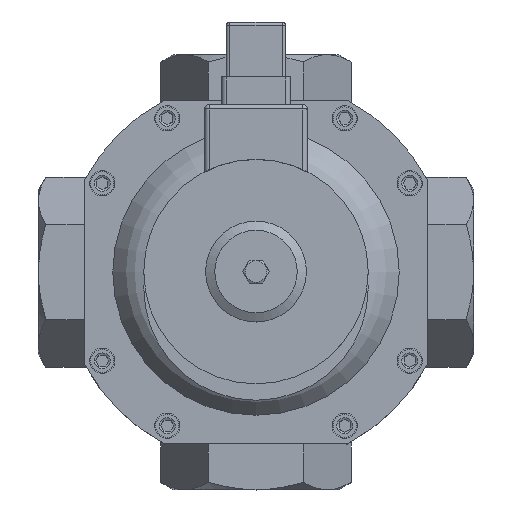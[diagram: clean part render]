
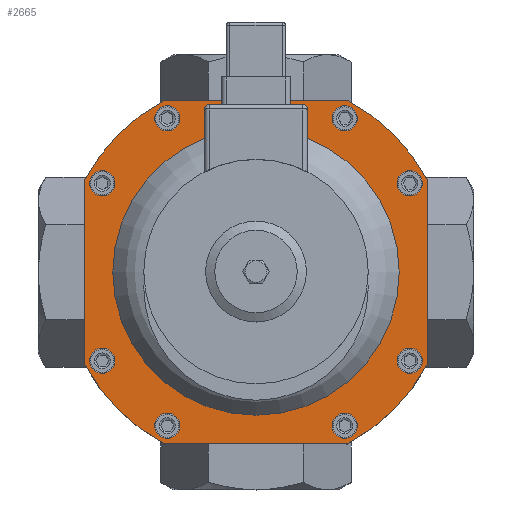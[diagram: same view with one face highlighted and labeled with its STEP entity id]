
A CAD part, top view. The second image highlights one B-rep face of the part: STEP entity #2665.
In plain terms, the highlighted planar face has unit normal (0, 0, 1).
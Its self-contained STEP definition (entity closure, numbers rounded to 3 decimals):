
#2665 = ADVANCED_FACE( '', ( #4058, #4059, #4060, #4061, #4062, #4063, #4064, #4065, #4066, #4067 ), #4068, .T. );
#4058 = FACE_BOUND( '', #6499, .T. );
#4059 = FACE_BOUND( '', #6500, .T. );
#4060 = FACE_BOUND( '', #6501, .T. );
#4061 = FACE_BOUND( '', #6502, .T. );
#4062 = FACE_BOUND( '', #6503, .T. );
#4063 = FACE_BOUND( '', #6504, .T. );
#4064 = FACE_BOUND( '', #6505, .T. );
#4065 = FACE_BOUND( '', #6506, .T. );
#4066 = FACE_OUTER_BOUND( '', #6507, .T. );
#4067 = FACE_BOUND( '', #6508, .T. );
#4068 = PLANE( '', #6509 );
#6499 = EDGE_LOOP( '', ( #10194 ) );
#6500 = EDGE_LOOP( '', ( #10195 ) );
#6501 = EDGE_LOOP( '', ( #10196 ) );
#6502 = EDGE_LOOP( '', ( #10197 ) );
#6503 = EDGE_LOOP( '', ( #10198 ) );
#6504 = EDGE_LOOP( '', ( #10199 ) );
#6505 = EDGE_LOOP( '', ( #10200 ) );
#6506 = EDGE_LOOP( '', ( #10201 ) );
#6507 = EDGE_LOOP( '', ( #10202, #10203, #10204, #10205, #10206, #10207, #10208, #10209 ) );
#6508 = EDGE_LOOP( '', ( #10210 ) );
#6509 = AXIS2_PLACEMENT_3D( '', #10211, #10212, #10213 );
#10194 = ORIENTED_EDGE( '', *, *, #12649, .T. );
#10195 = ORIENTED_EDGE( '', *, *, #12645, .T. );
#10196 = ORIENTED_EDGE( '', *, *, #12657, .T. );
#10197 = ORIENTED_EDGE( '', *, *, #12653, .T. );
#10198 = ORIENTED_EDGE( '', *, *, #12665, .T. );
#10199 = ORIENTED_EDGE( '', *, *, #12661, .T. );
#10200 = ORIENTED_EDGE( '', *, *, #12692, .T. );
#10201 = ORIENTED_EDGE( '', *, *, #12693, .T. );
#10202 = ORIENTED_EDGE( '', *, *, #12668, .T. );
#10203 = ORIENTED_EDGE( '', *, *, #12672, .T. );
#10204 = ORIENTED_EDGE( '', *, *, #12675, .T. );
#10205 = ORIENTED_EDGE( '', *, *, #12678, .T. );
#10206 = ORIENTED_EDGE( '', *, *, #12681, .T. );
#10207 = ORIENTED_EDGE( '', *, *, #12684, .T. );
#10208 = ORIENTED_EDGE( '', *, *, #12687, .T. );
#10209 = ORIENTED_EDGE( '', *, *, #12689, .T. );
#10210 = ORIENTED_EDGE( '', *, *, #12694, .T. );
#10211 = CARTESIAN_POINT( '', ( 0., 0., 13. ) );
#10212 = DIRECTION( '', ( 0., 0., 1. ) );
#10213 = DIRECTION( '', ( 1., 0., 0. ) );
#12645 = EDGE_CURVE( '', #14261, #14261, #14262, .T. );
#12649 = EDGE_CURVE( '', #14269, #14269, #14270, .T. );
#12653 = EDGE_CURVE( '', #14277, #14277, #14278, .T. );
#12657 = EDGE_CURVE( '', #14285, #14285, #14286, .T. );
#12661 = EDGE_CURVE( '', #14293, #14293, #14294, .T. );
#12665 = EDGE_CURVE( '', #14301, #14301, #14302, .T. );
#12668 = EDGE_CURVE( '', #14308, #14306, #14309, .T. );
#12672 = EDGE_CURVE( '', #14306, #14313, #14315, .T. );
#12675 = EDGE_CURVE( '', #14313, #14318, #14320, .T. );
#12678 = EDGE_CURVE( '', #14318, #14323, #14325, .T. );
#12681 = EDGE_CURVE( '', #14323, #14328, #14330, .T. );
#12684 = EDGE_CURVE( '', #14328, #14333, #14335, .T. );
#12687 = EDGE_CURVE( '', #14333, #14338, #14340, .T. );
#12689 = EDGE_CURVE( '', #14338, #14308, #14342, .T. );
#12692 = EDGE_CURVE( '', #14347, #14347, #14348, .T. );
#12693 = EDGE_CURVE( '', #14349, #14349, #14350, .T. );
#12694 = EDGE_CURVE( '', #14351, #14351, #14352, .F. );
#14261 = VERTEX_POINT( '', #18893 );
#14262 = CIRCLE( '', #18894, 5.5 );
#14269 = VERTEX_POINT( '', #18901 );
#14270 = CIRCLE( '', #18902, 5.5 );
#14277 = VERTEX_POINT( '', #18909 );
#14278 = CIRCLE( '', #18910, 5.5 );
#14285 = VERTEX_POINT( '', #18917 );
#14286 = CIRCLE( '', #18918, 5.5 );
#14293 = VERTEX_POINT( '', #18925 );
#14294 = CIRCLE( '', #18926, 5.5 );
#14301 = VERTEX_POINT( '', #18933 );
#14302 = CIRCLE( '', #18934, 5.5 );
#14306 = VERTEX_POINT( '', #18938 );
#14308 = VERTEX_POINT( '', #18941 );
#14309 = CIRCLE( '', #18942, 85. );
#14313 = VERTEX_POINT( '', #18948 );
#14315 = LINE( '', #18951, #18952 );
#14318 = VERTEX_POINT( '', #18955 );
#14320 = CIRCLE( '', #18958, 85. );
#14323 = VERTEX_POINT( '', #18962 );
#14325 = LINE( '', #18965, #18966 );
#14328 = VERTEX_POINT( '', #18969 );
#14330 = CIRCLE( '', #18972, 85. );
#14333 = VERTEX_POINT( '', #18976 );
#14335 = LINE( '', #18979, #18980 );
#14338 = VERTEX_POINT( '', #18983 );
#14340 = CIRCLE( '', #18986, 85. );
#14342 = LINE( '', #18989, #18990 );
#14347 = VERTEX_POINT( '', #18995 );
#14348 = CIRCLE( '', #18996, 5.5 );
#14349 = VERTEX_POINT( '', #18997 );
#14350 = CIRCLE( '', #18998, 5.5 );
#14351 = VERTEX_POINT( '', #18999 );
#14352 = CIRCLE( '', #19000, 62.517 );
#18893 = CARTESIAN_POINT( '', ( 61.617, 38.75, 13. ) );
#18894 = AXIS2_PLACEMENT_3D( '', #21844, #21845, #21846 );
#18901 = CARTESIAN_POINT( '', ( 33.25, 67.117, 13. ) );
#18902 = AXIS2_PLACEMENT_3D( '', #21856, #21857, #21858 );
#18909 = CARTESIAN_POINT( '', ( 38.75, -61.617, 13. ) );
#18910 = AXIS2_PLACEMENT_3D( '', #21868, #21869, #21870 );
#18917 = CARTESIAN_POINT( '', ( 67.117, -33.25, 13. ) );
#18918 = AXIS2_PLACEMENT_3D( '', #21880, #21881, #21882 );
#18925 = CARTESIAN_POINT( '', ( -61.617, -38.75, 13. ) );
#18926 = AXIS2_PLACEMENT_3D( '', #21892, #21893, #21894 );
#18933 = CARTESIAN_POINT( '', ( -33.25, -67.117, 13. ) );
#18934 = AXIS2_PLACEMENT_3D( '', #21904, #21905, #21906 );
#18938 = CARTESIAN_POINT( '', ( -75., 40., 13. ) );
#18941 = CARTESIAN_POINT( '', ( -40., 75., 13. ) );
#18942 = AXIS2_PLACEMENT_3D( '', #21911, #21912, #21913 );
#18948 = CARTESIAN_POINT( '', ( -75., -40., 13. ) );
#18951 = CARTESIAN_POINT( '', ( -75., 40., 13. ) );
#18952 = VECTOR( '', #21917, 1000. );
#18955 = CARTESIAN_POINT( '', ( -40., -75., 13. ) );
#18958 = AXIS2_PLACEMENT_3D( '', #21922, #21923, #21924 );
#18962 = CARTESIAN_POINT( '', ( 40., -75., 13. ) );
#18965 = CARTESIAN_POINT( '', ( -40., -75., 13. ) );
#18966 = VECTOR( '', #21927, 1000. );
#18969 = CARTESIAN_POINT( '', ( 75., -40., 13. ) );
#18972 = AXIS2_PLACEMENT_3D( '', #21932, #21933, #21934 );
#18976 = CARTESIAN_POINT( '', ( 75., 40., 13. ) );
#18979 = CARTESIAN_POINT( '', ( 75., -40., 13. ) );
#18980 = VECTOR( '', #21937, 1000. );
#18983 = CARTESIAN_POINT( '', ( 40., 75., 13. ) );
#18986 = AXIS2_PLACEMENT_3D( '', #21942, #21943, #21944 );
#18989 = CARTESIAN_POINT( '', ( 40., 75., 13. ) );
#18990 = VECTOR( '', #21946, 1000. );
#18995 = CARTESIAN_POINT( '', ( -38.75, 61.617, 13. ) );
#18996 = AXIS2_PLACEMENT_3D( '', #21953, #21954, #21955 );
#18997 = CARTESIAN_POINT( '', ( -67.117, 33.25, 13. ) );
#18998 = AXIS2_PLACEMENT_3D( '', #21956, #21957, #21958 );
#18999 = CARTESIAN_POINT( '', ( 62.517, 0., 13. ) );
#19000 = AXIS2_PLACEMENT_3D( '', #21959, #21960, #21961 );
#21844 = CARTESIAN_POINT( '', ( 67.117, 38.75, 13. ) );
#21845 = DIRECTION( '', ( 0., 0., -1. ) );
#21846 = DIRECTION( '', ( -1., 0., 0. ) );
#21856 = CARTESIAN_POINT( '', ( 38.75, 67.117, 13. ) );
#21857 = DIRECTION( '', ( 0., 0., -1. ) );
#21858 = DIRECTION( '', ( -1., 0., 0. ) );
#21868 = CARTESIAN_POINT( '', ( 38.75, -67.117, 13. ) );
#21869 = DIRECTION( '', ( 0., 0., -1. ) );
#21870 = DIRECTION( '', ( 0., 1., 0. ) );
#21880 = CARTESIAN_POINT( '', ( 67.117, -38.75, 13. ) );
#21881 = DIRECTION( '', ( 0., 0., -1. ) );
#21882 = DIRECTION( '', ( 0., 1., 0. ) );
#21892 = CARTESIAN_POINT( '', ( -67.117, -38.75, 13. ) );
#21893 = DIRECTION( '', ( 0., 0., -1. ) );
#21894 = DIRECTION( '', ( 1., 0., 0. ) );
#21904 = CARTESIAN_POINT( '', ( -38.75, -67.117, 13. ) );
#21905 = DIRECTION( '', ( 0., 0., -1. ) );
#21906 = DIRECTION( '', ( 1., 0., 0. ) );
#21911 = CARTESIAN_POINT( '', ( 0., 0., 13. ) );
#21912 = DIRECTION( '', ( 0., 0., 1. ) );
#21913 = DIRECTION( '', ( 1., 0., 0. ) );
#21917 = DIRECTION( '', ( 0., -1., 0. ) );
#21922 = CARTESIAN_POINT( '', ( 0., 0., 13. ) );
#21923 = DIRECTION( '', ( 0., 0., 1. ) );
#21924 = DIRECTION( '', ( 1., 0., 0. ) );
#21927 = DIRECTION( '', ( 1., 0., 0. ) );
#21932 = CARTESIAN_POINT( '', ( 0., 0., 13. ) );
#21933 = DIRECTION( '', ( 0., 0., 1. ) );
#21934 = DIRECTION( '', ( 1., 0., 0. ) );
#21937 = DIRECTION( '', ( 0., 1., 0. ) );
#21942 = CARTESIAN_POINT( '', ( 0., 0., 13. ) );
#21943 = DIRECTION( '', ( 0., 0., 1. ) );
#21944 = DIRECTION( '', ( 1., 0., 0. ) );
#21946 = DIRECTION( '', ( -1., 0., 0. ) );
#21953 = CARTESIAN_POINT( '', ( -38.75, 67.117, 13. ) );
#21954 = DIRECTION( '', ( 0., 0., -1. ) );
#21955 = DIRECTION( '', ( 0., -1., 0. ) );
#21956 = CARTESIAN_POINT( '', ( -67.117, 38.75, 13. ) );
#21957 = DIRECTION( '', ( 0., 0., -1. ) );
#21958 = DIRECTION( '', ( 0., -1., 0. ) );
#21959 = CARTESIAN_POINT( '', ( 0., 0., 13. ) );
#21960 = DIRECTION( '', ( 0., 0., 1. ) );
#21961 = DIRECTION( '', ( 1., 0., 0. ) );
